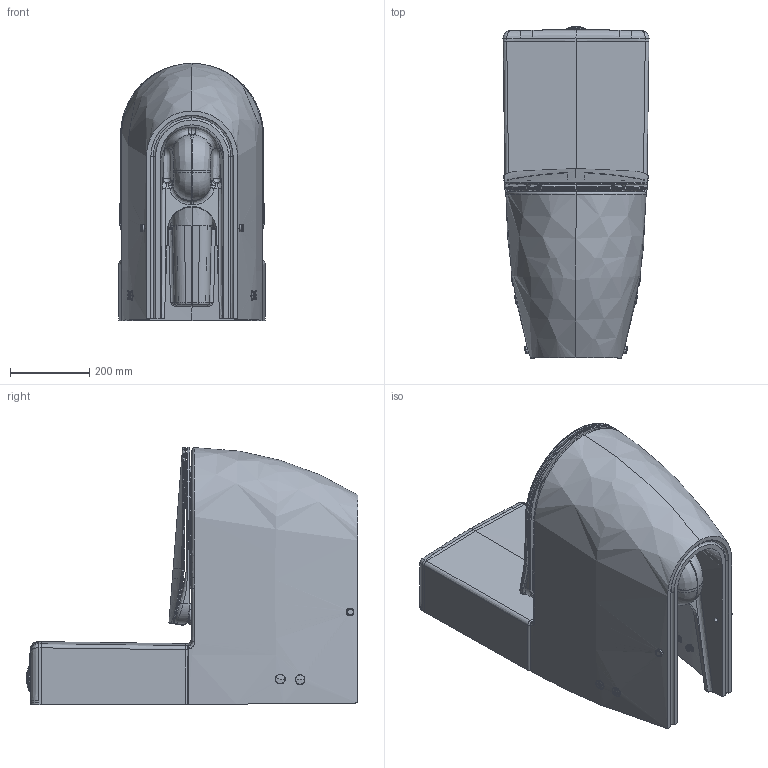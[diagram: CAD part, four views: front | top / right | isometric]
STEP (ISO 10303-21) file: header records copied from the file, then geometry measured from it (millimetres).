
FILE_DESCRIPTION (( 'STEP AP203' ), '1' );
FILE_NAME ('FE360+MA410+KC0903.02.0000E.STEP', '2022-04-11T14:52:15', ( '' ), ( '' ), 'SwSTEP 2.0', 'SolidWorks 2021', '' );
FILE_SCHEMA (( 'CONFIG_CONTROL_DESIGN' ));
Products named in the file (1): FE360+MA410+KC0903.02.0000E
Bounding box: 369.41 x 839.77 x 650.49 mm (x, y, z)
Volume: 41444993.6 mm3; surface area: 3415586.7 mm2
Topology: 40 solids, 40 shells, 2233 faces, 5484 edges, 3384 vertices
Faces by surface type: cylinder 930, bspline 589, plane 448, torus 130, sphere 78, cone 58
Entity records: 251524 total; most frequent: CARTESIAN_POINT 204406, ORIENTED_EDGE 10804, DIRECTION 8245, EDGE_CURVE 5402, VERTEX_POINT 3384, AXIS2_PLACEMENT_3D 3325, EDGE_LOOP 2428, FACE_OUTER_BOUND 2233
